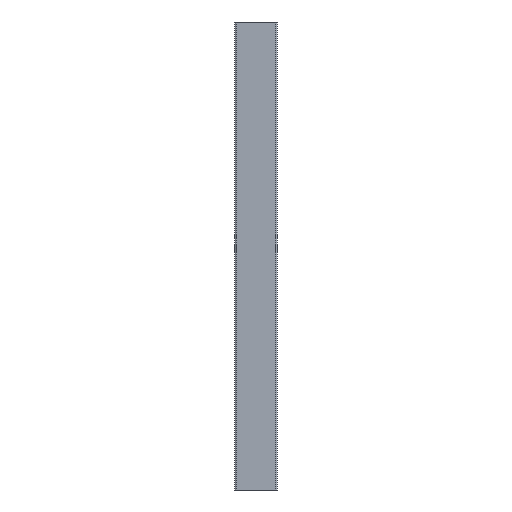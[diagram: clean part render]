
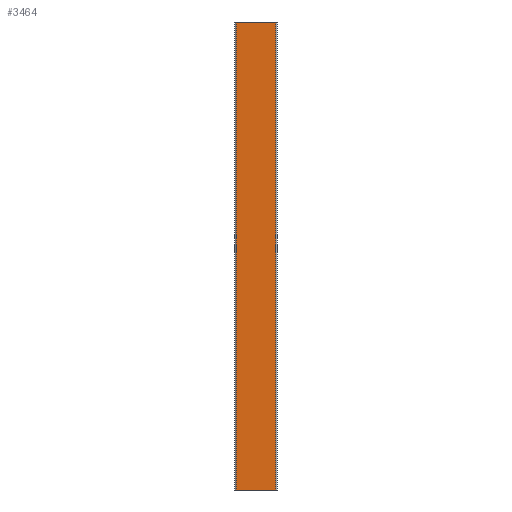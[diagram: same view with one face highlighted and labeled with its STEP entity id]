
A CAD part, front view. The second image highlights one B-rep face of the part: STEP entity #3464.
In plain terms, the highlighted planar face has unit normal (0, -1, 0).
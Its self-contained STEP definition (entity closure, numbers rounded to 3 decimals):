
#93 = DIRECTION ( 'NONE',  ( 0., 0., 1. ) ) ;
#129 = CARTESIAN_POINT ( 'NONE',  ( -42., -22.5, -500. ) ) ;
#339 = AXIS2_PLACEMENT_3D ( 'NONE', #4961, #1825, #5953 ) ;
#569 = LINE ( 'NONE', #129, #5619 ) ;
#929 = DIRECTION ( 'NONE',  ( 1., 0., 0. ) ) ;
#1050 = EDGE_CURVE ( 'NONE', #4314, #1874, #5479, .T. ) ;
#1397 = PLANE ( 'NONE',  #339 ) ;
#1419 = CARTESIAN_POINT ( 'NONE',  ( -42., -22.5, -500. ) ) ;
#1825 = DIRECTION ( 'NONE',  ( 0., -1., 0. ) ) ;
#1866 = CARTESIAN_POINT ( 'NONE',  ( -42., -22.5, 500. ) ) ;
#1874 = VERTEX_POINT ( 'NONE', #5370 ) ;
#1937 = LINE ( 'NONE', #1866, #5496 ) ;
#1994 = CARTESIAN_POINT ( 'NONE',  ( -42., -22.5, -500. ) ) ;
#2197 = CARTESIAN_POINT ( 'NONE',  ( -42., -22.5, 500. ) ) ;
#2444 = VECTOR ( 'NONE', #4165, 1000. ) ;
#2672 = CARTESIAN_POINT ( 'NONE',  ( 42., -22.5, 500. ) ) ;
#2996 = EDGE_LOOP ( 'NONE', ( #3652, #5951, #3467, #5798 ) ) ;
#3310 = LINE ( 'NONE', #4291, #2444 ) ;
#3464 = ADVANCED_FACE ( 'NONE', ( #6362 ), #1397, .T. ) ;
#3467 = ORIENTED_EDGE ( 'NONE', *, *, #1050, .T. ) ;
#3488 = VECTOR ( 'NONE', #929, 1000. ) ;
#3652 = ORIENTED_EDGE ( 'NONE', *, *, #6252, .F. ) ;
#3740 = EDGE_CURVE ( 'NONE', #1874, #4537, #3310, .T. ) ;
#4165 = DIRECTION ( 'NONE',  ( 0., 0., 1. ) ) ;
#4291 = CARTESIAN_POINT ( 'NONE',  ( 42., -22.5, -500. ) ) ;
#4314 = VERTEX_POINT ( 'NONE', #1994 ) ;
#4420 = EDGE_CURVE ( 'NONE', #4314, #6076, #569, .T. ) ;
#4537 = VERTEX_POINT ( 'NONE', #2672 ) ;
#4961 = CARTESIAN_POINT ( 'NONE',  ( -42., -22.5, -500. ) ) ;
#5370 = CARTESIAN_POINT ( 'NONE',  ( 42., -22.5, -500. ) ) ;
#5375 = DIRECTION ( 'NONE',  ( 1., 0., 0. ) ) ;
#5479 = LINE ( 'NONE', #1419, #3488 ) ;
#5496 = VECTOR ( 'NONE', #5375, 1000. ) ;
#5619 = VECTOR ( 'NONE', #93, 1000. ) ;
#5798 = ORIENTED_EDGE ( 'NONE', *, *, #3740, .T. ) ;
#5951 = ORIENTED_EDGE ( 'NONE', *, *, #4420, .F. ) ;
#5953 = DIRECTION ( 'NONE',  ( 1., 0., 0. ) ) ;
#6076 = VERTEX_POINT ( 'NONE', #2197 ) ;
#6252 = EDGE_CURVE ( 'NONE', #6076, #4537, #1937, .T. ) ;
#6362 = FACE_OUTER_BOUND ( 'NONE', #2996, .T. ) ;
